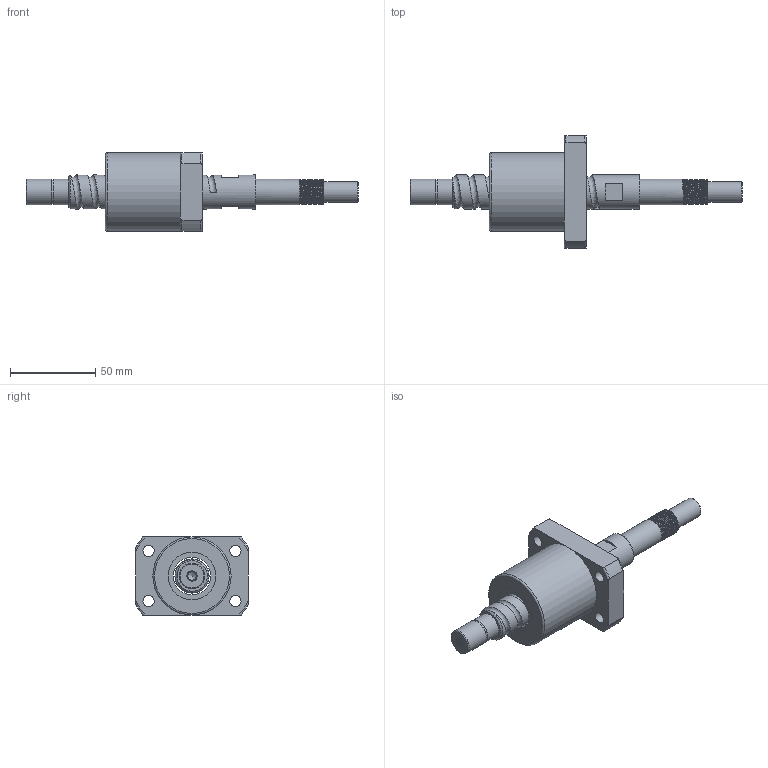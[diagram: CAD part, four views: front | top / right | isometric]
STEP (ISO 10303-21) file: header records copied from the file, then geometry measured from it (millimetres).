
FILE_DESCRIPTION (( 'STEP AP203' ), '1' );
FILE_NAME ('XSVR02010-00.STEP', '2023-08-16T00:49:21', ( '' ), ( '' ), 'SwSTEP 2.0', 'SolidWorks 2022', '' );
FILE_SCHEMA (( 'CONFIG_CONTROL_DESIGN' ));
Length unit declared in the file: millimetre
Products named in the file (1): XSVR02010-00
Bounding box: 195.18 x 66 x 46 mm (x, y, z)
Volume: 132638.1 mm3; surface area: 34132.8 mm2
Topology: 4 solids, 4 shells, 120 faces, 292 edges, 193 vertices
Faces by surface type: cylinder 66, plane 34, torus 9, cone 6, bspline 5
Full cylindrical faces by diameter (mm): 5 x15, 6.6 x4, 11 x4, 12 x1, 14.3 x1, 15 x16, 20 x8, 22 x3, 28 x4, 46 x1
Entity records: 15205 total; most frequent: CARTESIAN_POINT 13466, DIRECTION 339, ORIENTED_EDGE 288, AXIS2_PLACEMENT_3D 154, EDGE_CURVE 144, EDGE_LOOP 138, VERTEX_POINT 110, FACE_OUTER_BOUND 107
